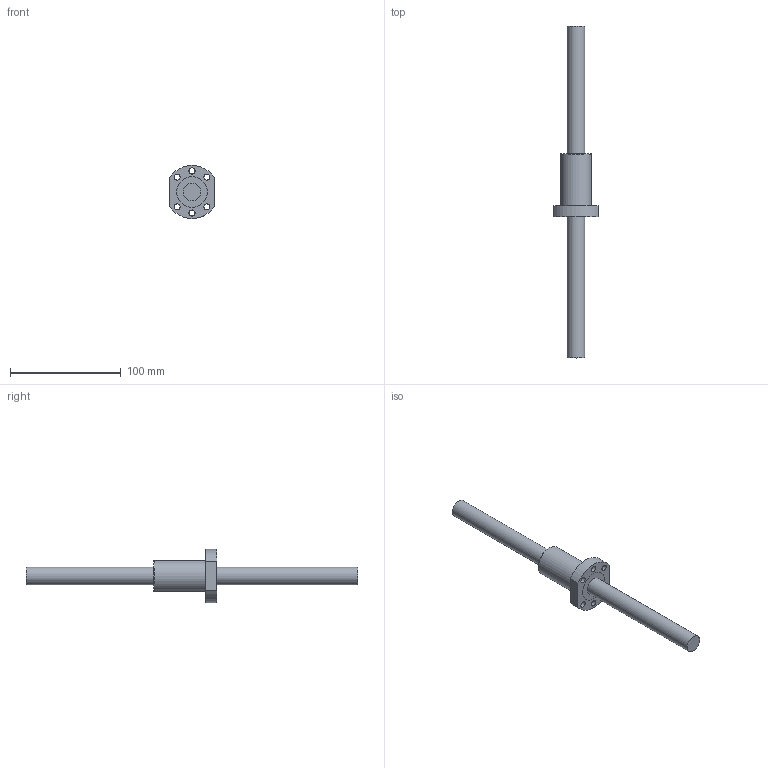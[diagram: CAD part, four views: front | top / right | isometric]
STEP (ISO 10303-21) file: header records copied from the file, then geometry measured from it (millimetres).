
FILE_DESCRIPTION(/* description */ (''),/* implementation_level */ '2;1');
FILE_NAME(/* name */ 'SFNU1610.stp',/* time_stamp */ '2019-08-26T10:56:09+08:00',/* author */ (''),/* organization */ (''),/* preprocessor_version */ 'ST-DEVELOPER v14',/* originating_system */ 'SIEMENS PLM Software NX 8.0',/* authorisation */ '');
FILE_SCHEMA (('AP203_CONFIGURATION_CONTROLLED_3D_DESIGN_OF_MECHANICAL_PARTS_AND_ASSEMBLIES_MIM_LF { 1 0 10303 403 2 1 2}'));
Length unit declared in the file: millimetre
Products named in the file (1): 00250CE07365tj04
Bounding box: 40 x 300 x 48 mm (x, y, z)
Volume: 90151.7 mm3; surface area: 30424.5 mm2
Topology: 4 solids, 4 shells, 32 faces, 74 edges, 51 vertices
Faces by surface type: cylinder 18, plane 13, torus 1
Full cylindrical faces by diameter (mm): 5 x1, 5.5 x6, 16 x4, 23 x2, 28 x3
Entity records: 1004 total; most frequent: CARTESIAN_POINT 240, DIRECTION 146, ORIENTED_EDGE 96, EDGE_LOOP 70, AXIS2_PLACEMENT_3D 68, FACE_BOUND 64, EDGE_CURVE 48, VERTEX_POINT 42
